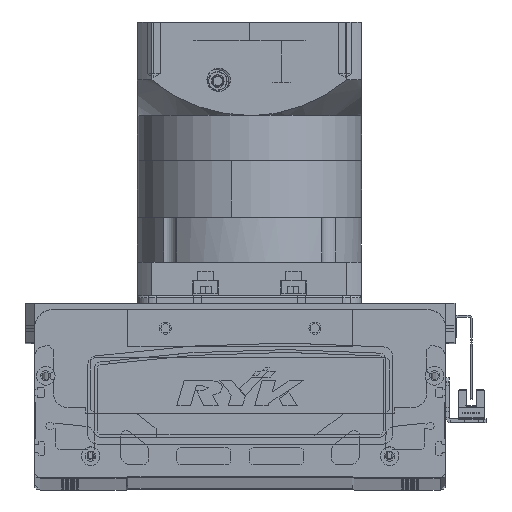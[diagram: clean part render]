
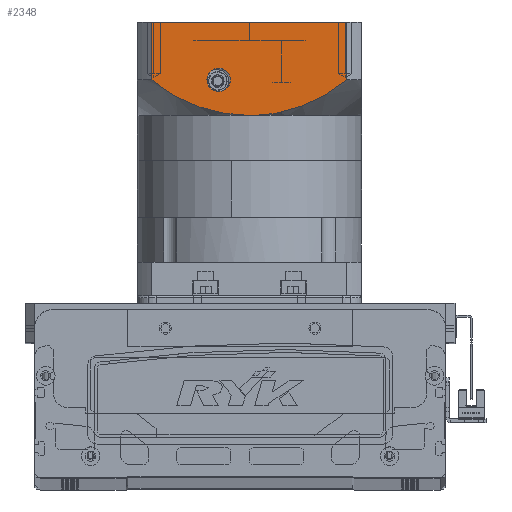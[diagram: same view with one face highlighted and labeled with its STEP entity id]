
A CAD part, top view. The second image highlights one B-rep face of the part: STEP entity #2348.
In plain terms, the highlighted planar face has unit normal (0, 0, 1) as drawn and (0, -1, 0) by its records, which use the part's own axes.
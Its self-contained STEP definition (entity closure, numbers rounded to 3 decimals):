
#805 = CARTESIAN_POINT ( 'NONE',  ( 15.267, -60., -101.938 ) ) ;
#1076 = CARTESIAN_POINT ( 'NONE',  ( 9.454, -60., -100.914 ) ) ;
#1556 = CARTESIAN_POINT ( 'NONE',  ( -2.376, -60., -100.5 ) ) ;
#1830 = CARTESIAN_POINT ( 'NONE',  ( -4.747, -60., -100.604 ) ) ;
#2075 = CARTESIAN_POINT ( 'NONE',  ( -38.51, -60., -110.207 ) ) ;
#2348 = ADVANCED_FACE ( 'NONE', ( #58281, #46933 ), #39163, .T. ) ;
#3907 = AXIS2_PLACEMENT_3D ( 'NONE', #4393, #40300, #76061 ) ;
#4393 = CARTESIAN_POINT ( 'NONE',  ( 16.5, -60., -119.5 ) ) ;
#4641 = VERTEX_POINT ( 'NONE', #46164 ) ;
#5150 = EDGE_CURVE ( 'NONE', #25046, #30974, #45760, .T. ) ;
#5253 = AXIS2_PLACEMENT_3D ( 'NONE', #8294, #32944, #33210 ) ;
#6884 = CARTESIAN_POINT ( 'NONE',  ( 52.156, -60., -119.5 ) ) ;
#7621 = CARTESIAN_POINT ( 'NONE',  ( -11.825, -60., -101.356 ) ) ;
#8294 = CARTESIAN_POINT ( 'NONE',  ( -60., -60., -150.5 ) ) ;
#8410 = CARTESIAN_POINT ( 'NONE',  ( -32.118, -60., -107.084 ) ) ;
#8716 = B_SPLINE_CURVE_WITH_KNOTS ( 'NONE', 3,
 ( #36737, #30725, #1076, #805, #24683, #66377, #67157, #31238, #18388, #72960, #42737, #72447, #48496, #35980, #54795, #60605, #36215, #6884 ),
 .UNSPECIFIED., .F., .F.,
 ( 4, 2, 2, 2, 2, 2, 2, 2, 4 ),
 ( 0., 0.014, 0.018, 0.021, 0.028, 0.042, 0.046, 0.05, 0.057 ),
 .UNSPECIFIED. ) ;
#11132 = DIRECTION ( 'NONE',  ( 0., 0., 1. ) ) ;
#13248 = DIRECTION ( 'NONE',  ( 0., 1., 0. ) ) ;
#13354 = CARTESIAN_POINT ( 'NONE',  ( -39.546, -60., -110.776 ) ) ;
#13775 = CARTESIAN_POINT ( 'NONE',  ( 16.5, -60., -119.5 ) ) ;
#13895 = CARTESIAN_POINT ( 'NONE',  ( -52.156, -60., -119.5 ) ) ;
#15889 = DIRECTION ( 'NONE',  ( 1., 0., 0. ) ) ;
#17520 = ORIENTED_EDGE ( 'NONE', *, *, #65287, .T. ) ;
#18159 = VECTOR ( 'NONE', #11132, 1000. ) ;
#18388 = CARTESIAN_POINT ( 'NONE',  ( 25.577, -60., -104.596 ) ) ;
#19919 = CARTESIAN_POINT ( 'NONE',  ( -23.319, -60., -103.777 ) ) ;
#20597 = VERTEX_POINT ( 'NONE', #26865 ) ;
#22438 = CARTESIAN_POINT ( 'NONE',  ( 0., -60., -100.5 ) ) ;
#23354 = CIRCLE ( 'NONE', #3907, 6.25 ) ;
#24619 = VECTOR ( 'NONE', #15889, 1000. ) ;
#24683 = CARTESIAN_POINT ( 'NONE',  ( 16.426, -60., -102.169 ) ) ;
#25046 = VERTEX_POINT ( 'NONE', #69782 ) ;
#26199 = CARTESIAN_POINT ( 'NONE',  ( -35.342, -60., -108.587 ) ) ;
#26865 = CARTESIAN_POINT ( 'NONE',  ( 16.5, -60., -113.25 ) ) ;
#29231 = ORIENTED_EDGE ( 'NONE', *, *, #68081, .F. ) ;
#30725 = CARTESIAN_POINT ( 'NONE',  ( 4.753, -60., -100.5 ) ) ;
#30974 = VERTEX_POINT ( 'NONE', #70158 ) ;
#31238 = CARTESIAN_POINT ( 'NONE',  ( 23.329, -60., -103.886 ) ) ;
#31469 = CARTESIAN_POINT ( 'NONE',  ( -48.52, -60., -116.438 ) ) ;
#32944 = DIRECTION ( 'NONE',  ( 0., -1., 0. ) ) ;
#33210 = DIRECTION ( 'NONE',  ( 1., 0., 0. ) ) ;
#33807 = AXIS2_PLACEMENT_3D ( 'NONE', #13775, #13248, #61723 ) ;
#35240 = CARTESIAN_POINT ( 'NONE',  ( 52.156, -60., -150.5 ) ) ;
#35980 = CARTESIAN_POINT ( 'NONE',  ( 44.553, -60., -113.817 ) ) ;
#36215 = CARTESIAN_POINT ( 'NONE',  ( 50.338, -60., -117.969 ) ) ;
#36316 = CARTESIAN_POINT ( 'NONE',  ( 16.5, -60., -125.75 ) ) ;
#36737 = CARTESIAN_POINT ( 'NONE',  ( 0., -60., -100.5 ) ) ;
#37467 = CARTESIAN_POINT ( 'NONE',  ( -18.792, -60., -102.562 ) ) ;
#37988 = CARTESIAN_POINT ( 'NONE',  ( -36.409, -60., -109.113 ) ) ;
#38002 = ORIENTED_EDGE ( 'NONE', *, *, #62760, .T. ) ;
#39163 = PLANE ( 'NONE',  #5253 ) ;
#40239 = DIRECTION ( 'NONE',  ( 0., 0., 1. ) ) ;
#40300 = DIRECTION ( 'NONE',  ( 0., 1., 0. ) ) ;
#42428 = LINE ( 'NONE', #63862, #24619 ) ;
#42737 = CARTESIAN_POINT ( 'NONE',  ( 36.444, -60., -108.986 ) ) ;
#42879 = ORIENTED_EDGE ( 'NONE', *, *, #58338, .F. ) ;
#43494 = CARTESIAN_POINT ( 'NONE',  ( 0., -60., -100.5 ) ) ;
#44284 = CARTESIAN_POINT ( 'NONE',  ( -9.477, -60., -101.046 ) ) ;
#45760 = LINE ( 'NONE', #57310, #55149 ) ;
#46164 = CARTESIAN_POINT ( 'NONE',  ( 52.156, -60., -150.5 ) ) ;
#46933 = FACE_BOUND ( 'NONE', #76029, .T. ) ;
#48496 = CARTESIAN_POINT ( 'NONE',  ( 42.555, -60., -112.543 ) ) ;
#50983 = LINE ( 'NONE', #35240, #18159 ) ;
#52979 = EDGE_CURVE ( 'NONE', #25046, #4641, #42428, .T. ) ;
#54795 = CARTESIAN_POINT ( 'NONE',  ( 45.542, -60., -114.478 ) ) ;
#55149 = VECTOR ( 'NONE', #40239, 1000. ) ;
#55505 = EDGE_CURVE ( 'NONE', #55856, #20597, #23354, .T. ) ;
#55545 = CARTESIAN_POINT ( 'NONE',  ( -12.993, -60., -101.537 ) ) ;
#55856 = VERTEX_POINT ( 'NONE', #36316 ) ;
#57310 = CARTESIAN_POINT ( 'NONE',  ( -52.156, -60., -97.5 ) ) ;
#58281 = FACE_OUTER_BOUND ( 'NONE', #74229, .T. ) ;
#58338 = EDGE_CURVE ( 'NONE', #30974, #62650, #66609, .T. ) ;
#58366 = ORIENTED_EDGE ( 'NONE', *, *, #5150, .F. ) ;
#60605 = CARTESIAN_POINT ( 'NONE',  ( 48.457, -60., -116.522 ) ) ;
#60984 = CIRCLE ( 'NONE', #33807, 6.25 ) ;
#61723 = DIRECTION ( 'NONE',  ( 0., 0., -1. ) ) ;
#62359 = CARTESIAN_POINT ( 'NONE',  ( -44.656, -60., -113.73 ) ) ;
#62650 = VERTEX_POINT ( 'NONE', #22438 ) ;
#62760 = EDGE_CURVE ( 'NONE', #4641, #66551, #50983, .T. ) ;
#63862 = CARTESIAN_POINT ( 'NONE',  ( -60., -60., -150.5 ) ) ;
#65287 = EDGE_CURVE ( 'NONE', #20597, #55856, #60984, .T. ) ;
#66377 = CARTESIAN_POINT ( 'NONE',  ( 18.739, -60., -102.681 ) ) ;
#66551 = VERTEX_POINT ( 'NONE', #75748 ) ;
#66609 = B_SPLINE_CURVE_WITH_KNOTS ( 'NONE', 3,
 ( #13895, #31469, #62359, #13354, #2075, #37988, #26199, #8410, #67662, #19919, #37467, #55545, #7621, #44284, #73995, #1830, #1556, #43494 ),
 .UNSPECIFIED., .F., .F.,
 ( 4, 2, 2, 2, 2, 2, 2, 2, 4 ),
 ( 0., 0.014, 0.018, 0.021, 0.028, 0.042, 0.046, 0.05, 0.057 ),
 .UNSPECIFIED. ) ;
#67157 = CARTESIAN_POINT ( 'NONE',  ( 19.894, -60., -102.964 ) ) ;
#67662 = CARTESIAN_POINT ( 'NONE',  ( -29.939, -60., -106.183 ) ) ;
#68081 = EDGE_CURVE ( 'NONE', #62650, #66551, #8716, .T. ) ;
#69016 = ORIENTED_EDGE ( 'NONE', *, *, #52979, .T. ) ;
#69782 = CARTESIAN_POINT ( 'NONE',  ( -52.156, -60., -150.5 ) ) ;
#70158 = CARTESIAN_POINT ( 'NONE',  ( -52.156, -60., -119.5 ) ) ;
#70506 = ORIENTED_EDGE ( 'NONE', *, *, #55505, .T. ) ;
#72447 = CARTESIAN_POINT ( 'NONE',  ( 41.545, -60., -111.931 ) ) ;
#72960 = CARTESIAN_POINT ( 'NONE',  ( 32.196, -60., -107.007 ) ) ;
#73995 = CARTESIAN_POINT ( 'NONE',  ( -8.294, -60., -100.916 ) ) ;
#74229 = EDGE_LOOP ( 'NONE', ( #58366, #69016, #38002, #29231, #42879 ) ) ;
#75748 = CARTESIAN_POINT ( 'NONE',  ( 52.156, -60., -119.5 ) ) ;
#76029 = EDGE_LOOP ( 'NONE', ( #70506, #17520 ) ) ;
#76061 = DIRECTION ( 'NONE',  ( 0., 0., -1. ) ) ;
